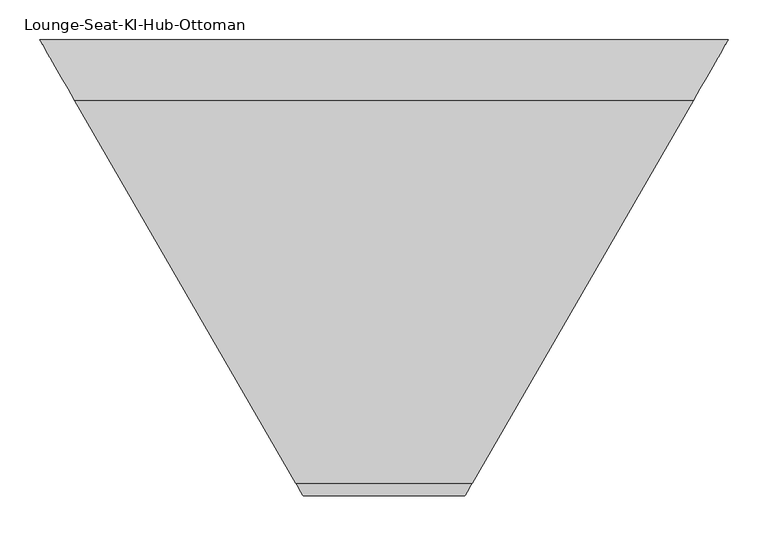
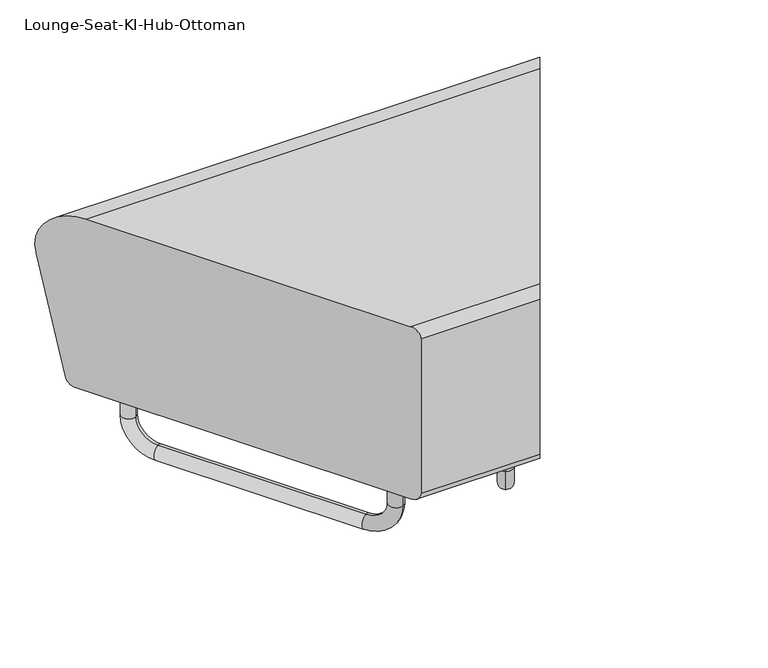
"""IFC4 building model written with IfcOpenShell, lengths in millimetres: furniture geometry."""

from ifc_helpers import new_model, si_unit, point, frame, origin, place, context, project, spatial, circle_curve, ellipse_curve, trimmed, source, transform, mapped, element, save
from ifc_brep_helpers import plane_surface, cylinder_surface, revolved_surface, advanced_brep


def lounge_seat_ki_hub_ottoman_b643156a(model_context):
    return source(origin(), model_context, "Body", "AdvancedBrep", [
        advanced_brep(
        [(87.3912127, -208.9719299, 120.65), (100.0912127, -186.9748847, 120.65), (87.3912127, -208.9719299, 63.5), (100.0912127, -186.9748847, 63.5), (119.1412127, -153.9793168, 25.4), (119.1412127, -153.9793168, 0.0), (296.9412127, 153.9793168, 0.0), (296.9412127, 153.9793168, 25.4), (315.9912127, 186.9748847, 63.5), (328.6912127, 208.9719299, 63.5), (328.6912127, 208.9719299, 120.65), (315.9912127, 186.9748847, 120.65)],
        [
            (0, 1, circle_curve(frame((93.7412127, -197.9734073, 120.65), z_axis=(0.0, 0.0, 1.0), x_axis=(0.4999999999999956, 0.8660254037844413, 0.0)), 12.7)),
            (1, 0, circle_curve(frame((93.7412127, -197.9734073, 120.65), z_axis=(0.0, 0.0, 1.0), x_axis=(0.4999999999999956, 0.8660254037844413, 0.0)), 12.7)),
            (0, 2),
            (2, 3, circle_curve(frame((93.7412127, -197.9734073, 63.5), z_axis=(0.0, 0.0, 1.0), x_axis=(0.4999999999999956, 0.8660254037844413, 0.0)), 12.7)),
            (3, 1),
            (3, 2, circle_curve(frame((93.7412127, -197.9734073, 63.5), z_axis=(0.0, 0.0, 1.0), x_axis=(0.4999999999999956, 0.8660254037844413, 0.0)), 12.7)),
            (4, 3, circle_curve(frame((119.1412127, -153.9793168, 63.5), z_axis=(-0.8660254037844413, 0.4999999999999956, 0.0), x_axis=(-0.4999999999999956, -0.8660254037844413, 0.0)), 38.1)),
            (2, 5, circle_curve(frame((119.1412127, -153.9793168, 63.5), z_axis=(0.8660254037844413, -0.4999999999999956, 0.0), x_axis=(-0.4999999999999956, -0.8660254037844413, 0.0)), 63.5)),
            (5, 4, circle_curve(frame((119.1412127, -153.9793168, 12.7), z_axis=(-0.4999999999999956, -0.8660254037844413, 0.0), x_axis=(0.0, 0.0, 1.0)), 12.7)),
            (4, 5, circle_curve(frame((119.1412127, -153.9793168, 12.7), z_axis=(-0.4999999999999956, -0.8660254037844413, 0.0), x_axis=(0.0, 0.0, 1.0)), 12.7)),
            (5, 6),
            (6, 7, circle_curve(frame((296.9412127, 153.9793168, 12.7), z_axis=(-0.4999999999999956, -0.8660254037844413, 0.0), x_axis=(0.0, 0.0, 1.0)), 12.7)),
            (7, 4),
            (7, 6, circle_curve(frame((296.9412127, 153.9793168, 12.7), z_axis=(-0.4999999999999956, -0.8660254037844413, 0.0), x_axis=(0.0, 0.0, 1.0)), 12.7)),
            (8, 7, circle_curve(frame((296.9412127, 153.9793168, 63.5), z_axis=(-0.8660254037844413, 0.4999999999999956, 0.0), x_axis=(0.0, 0.0, -1.0)), 38.1)),
            (6, 9, circle_curve(frame((296.9412127, 153.9793168, 63.5), z_axis=(0.8660254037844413, -0.4999999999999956, 0.0), x_axis=(0.0, 0.0, -1.0)), 63.5)),
            (9, 8, circle_curve(frame((322.3412127, 197.9734073, 63.5), z_axis=(0.0, 0.0, -1.0), x_axis=(-0.4999999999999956, -0.8660254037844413, 0.0)), 12.7)),
            (8, 9, circle_curve(frame((322.3412127, 197.9734073, 63.5), z_axis=(0.0, 0.0, -1.0), x_axis=(-0.4999999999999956, -0.8660254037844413, 0.0)), 12.7)),
            (10, 11, circle_curve(frame((322.3412127, 197.9734073, 120.65), z_axis=(0.0, 0.0, 1.0), x_axis=(-0.4999999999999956, -0.8660254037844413, 0.0)), 12.7)),
            (11, 10, circle_curve(frame((322.3412127, 197.9734073, 120.65), z_axis=(0.0, 0.0, 1.0), x_axis=(-0.4999999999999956, -0.8660254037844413, 0.0)), 12.7)),
            (9, 10),
            (11, 8),
        ],
        [
            plane_surface(frame((93.7412127, -197.9734073, 120.65), z_axis=(0.0, 0.0, 1.0000000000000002), x_axis=(0.8660254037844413, -0.4999999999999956, 0.0))),
            cylinder_surface(frame((93.7412127, -197.9734073, 120.65), z_axis=(0.0, 0.0, 1.0), x_axis=(0.4999999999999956, 0.8660254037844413, 0.0)), 12.7),
            revolved_surface(trimmed(ellipse_curve(frame((93.7412127, -197.9734073, 63.5), z_axis=(0.0, 0.0, 1.0), x_axis=(0.4999999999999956, 0.8660254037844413, 0.0)), 12.7, 12.7), [point((87.3912127, -208.9719299, 63.5))], [point((100.0912127, -186.9748847, 63.5))], True, "CARTESIAN"), (119.1412127, -153.9793168, 63.5), (0.8660254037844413, -0.4999999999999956, 0.0)),
            revolved_surface(trimmed(ellipse_curve(frame((93.7412127, -197.9734073, 63.5), z_axis=(0.0, 0.0, 1.0), x_axis=(0.4999999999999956, 0.8660254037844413, 0.0)), 12.7, 12.7), [point((100.0912127, -186.9748847, 63.5))], [point((87.3912127, -208.9719299, 63.5))], True, "CARTESIAN"), (119.1412127, -153.9793168, 63.5), (0.8660254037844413, -0.4999999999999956, 0.0)),
            cylinder_surface(frame((119.1412127, -153.9793168, 12.7), z_axis=(-0.4999999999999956, -0.8660254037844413, 0.0), x_axis=(0.0, 0.0, 1.0)), 12.7),
            revolved_surface(trimmed(ellipse_curve(frame((296.9412127, 153.9793168, 12.7), z_axis=(-0.4999999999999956, -0.8660254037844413, 0.0), x_axis=(0.0, 0.0, 1.0)), 12.7, 12.7), [point((296.9412127, 153.9793168, 0.0))], [point((296.9412127, 153.9793168, 25.4))], True, "CARTESIAN"), (296.9412127, 153.9793168, 63.5), (0.8660254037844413, -0.4999999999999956, 0.0)),
            revolved_surface(trimmed(ellipse_curve(frame((296.9412127, 153.9793168, 12.7), z_axis=(-0.4999999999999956, -0.8660254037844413, 0.0), x_axis=(0.0, 0.0, 1.0)), 12.7, 12.7), [point((296.9412127, 153.9793168, 25.4))], [point((296.9412127, 153.9793168, 0.0))], True, "CARTESIAN"), (296.9412127, 153.9793168, 63.5), (0.8660254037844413, -0.4999999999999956, 0.0)),
            plane_surface(frame((322.3412127, 197.9734073, 120.65), z_axis=(0.0, 0.0, 1.0000000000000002), x_axis=(0.8660254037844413, -0.4999999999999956, 0.0))),
            cylinder_surface(frame((322.3412127, 197.9734073, 63.5), z_axis=(0.0, 0.0, -1.0), x_axis=(-0.4999999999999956, -0.8660254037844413, 0.0)), 12.7),
        ],
        [
            (0, [[1, 2]]),
            (1, [[-1, 3, 4, 5]]),
            (1, [[-2, -5, 6, -3]]),
            (2, [[7, -4, 8, 9]]),
            (3, [[-8, -6, -7, 10]]),
            (4, [[-9, 11, 12, 13]]),
            (4, [[-10, -13, 14, -11]]),
            (5, [[15, -12, 16, 17]]),
            (6, [[-16, -14, -15, 18]]),
            (7, [[19, 20]]),
            (8, [[-17, 21, -20, 22]]),
            (8, [[-18, -22, -19, -21]]),
        ],
    ),
        advanced_brep(
        [(-87.3912127, -208.9719299, 120.65), (-100.0912127, -186.9748847, 120.65), (-87.3912127, -208.9719299, 63.5), (-100.0912127, -186.9748847, 63.5), (-119.1412127, -153.9793168, 25.4), (-119.1412127, -153.9793168, 0.0), (-296.9412127, 153.9793168, 0.0), (-296.9412127, 153.9793168, 25.4), (-315.9912127, 186.9748847, 63.5), (-328.6912127, 208.9719299, 63.5), (-328.6912127, 208.9719299, 120.65), (-315.9912127, 186.9748847, 120.65)],
        [
            (0, 1, circle_curve(frame((-93.7412127, -197.9734073, 120.65), z_axis=(0.0, 0.0, 1.0), x_axis=(-0.4999999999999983, 0.8660254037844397, 0.0)), 12.7)),
            (1, 0, circle_curve(frame((-93.7412127, -197.9734073, 120.65), z_axis=(0.0, 0.0, 1.0), x_axis=(-0.4999999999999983, 0.8660254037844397, 0.0)), 12.7)),
            (0, 2),
            (2, 3, circle_curve(frame((-93.7412127, -197.9734073, 63.5), z_axis=(0.0, 0.0, 1.0), x_axis=(-0.4999999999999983, 0.8660254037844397, 0.0)), 12.7)),
            (3, 1),
            (3, 2, circle_curve(frame((-93.7412127, -197.9734073, 63.5), z_axis=(0.0, 0.0, 1.0), x_axis=(-0.4999999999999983, 0.8660254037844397, 0.0)), 12.7)),
            (4, 3, circle_curve(frame((-119.1412127, -153.9793168, 63.5), z_axis=(-0.8660254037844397, -0.4999999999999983, 0.0), x_axis=(0.4999999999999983, -0.8660254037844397, 0.0)), 38.1)),
            (2, 5, circle_curve(frame((-119.1412127, -153.9793168, 63.5), z_axis=(0.8660254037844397, 0.4999999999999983, 0.0), x_axis=(0.4999999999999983, -0.8660254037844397, 0.0)), 63.5)),
            (5, 4, circle_curve(frame((-119.1412127, -153.9793168, 12.7), z_axis=(0.4999999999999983, -0.8660254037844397, 0.0), x_axis=(0.0, 0.0, 1.0)), 12.7)),
            (4, 5, circle_curve(frame((-119.1412127, -153.9793168, 12.7), z_axis=(0.4999999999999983, -0.8660254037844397, 0.0), x_axis=(0.0, 0.0, 1.0)), 12.7)),
            (5, 6),
            (6, 7, circle_curve(frame((-296.9412127, 153.9793168, 12.7), z_axis=(0.4999999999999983, -0.8660254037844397, 0.0), x_axis=(0.0, 0.0, 1.0)), 12.7)),
            (7, 4),
            (7, 6, circle_curve(frame((-296.9412127, 153.9793168, 12.7), z_axis=(0.4999999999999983, -0.8660254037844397, 0.0), x_axis=(0.0, 0.0, 1.0)), 12.7)),
            (8, 7, circle_curve(frame((-296.9412127, 153.9793168, 63.5), z_axis=(-0.8660254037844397, -0.4999999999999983, 0.0), x_axis=(0.0, 0.0, -1.0)), 38.1)),
            (6, 9, circle_curve(frame((-296.9412127, 153.9793168, 63.5), z_axis=(0.8660254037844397, 0.4999999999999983, 0.0), x_axis=(0.0, 0.0, -1.0)), 63.5)),
            (9, 8, circle_curve(frame((-322.3412127, 197.9734073, 63.5), z_axis=(0.0, 0.0, -1.0), x_axis=(0.4999999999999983, -0.8660254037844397, 0.0)), 12.7)),
            (8, 9, circle_curve(frame((-322.3412127, 197.9734073, 63.5), z_axis=(0.0, 0.0, -1.0), x_axis=(0.4999999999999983, -0.8660254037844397, 0.0)), 12.7)),
            (10, 11, circle_curve(frame((-322.3412127, 197.9734073, 120.65), z_axis=(0.0, 0.0, 1.0), x_axis=(0.4999999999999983, -0.8660254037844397, 0.0)), 12.7)),
            (11, 10, circle_curve(frame((-322.3412127, 197.9734073, 120.65), z_axis=(0.0, 0.0, 1.0), x_axis=(0.4999999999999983, -0.8660254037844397, 0.0)), 12.7)),
            (9, 10),
            (11, 8),
        ],
        [
            plane_surface(frame((-93.7412127, -197.9734073, 120.65), z_axis=(0.0, 0.0, 1.0000000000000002), x_axis=(0.8660254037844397, 0.4999999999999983, 0.0))),
            cylinder_surface(frame((-93.7412127, -197.9734073, 120.65), z_axis=(0.0, 0.0, 1.0), x_axis=(-0.4999999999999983, 0.8660254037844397, 0.0)), 12.7),
            revolved_surface(trimmed(ellipse_curve(frame((-93.7412127, -197.9734073, 63.5), z_axis=(0.0, 0.0, 1.0), x_axis=(-0.4999999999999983, 0.8660254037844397, 0.0)), 12.7, 12.7), [point((-87.3912127, -208.9719299, 63.5))], [point((-100.0912127, -186.9748847, 63.5))], True, "CARTESIAN"), (-119.1412127, -153.9793168, 63.5), (0.8660254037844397, 0.4999999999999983, 0.0)),
            revolved_surface(trimmed(ellipse_curve(frame((-93.7412127, -197.9734073, 63.5), z_axis=(0.0, 0.0, 1.0), x_axis=(-0.4999999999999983, 0.8660254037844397, 0.0)), 12.7, 12.7), [point((-100.0912127, -186.9748847, 63.5))], [point((-87.3912127, -208.9719299, 63.5))], True, "CARTESIAN"), (-119.1412127, -153.9793168, 63.5), (0.8660254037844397, 0.4999999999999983, 0.0)),
            cylinder_surface(frame((-119.1412127, -153.9793168, 12.7), z_axis=(0.4999999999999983, -0.8660254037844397, 0.0), x_axis=(0.0, 0.0, 1.0)), 12.7),
            revolved_surface(trimmed(ellipse_curve(frame((-296.9412127, 153.9793168, 12.7), z_axis=(0.4999999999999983, -0.8660254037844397, 0.0), x_axis=(0.0, 0.0, 1.0)), 12.7, 12.7), [point((-296.9412127, 153.9793168, 0.0))], [point((-296.9412127, 153.9793168, 25.4))], True, "CARTESIAN"), (-296.9412127, 153.9793168, 63.5), (0.8660254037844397, 0.4999999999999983, 0.0)),
            revolved_surface(trimmed(ellipse_curve(frame((-296.9412127, 153.9793168, 12.7), z_axis=(0.4999999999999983, -0.8660254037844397, 0.0), x_axis=(0.0, 0.0, 1.0)), 12.7, 12.7), [point((-296.9412127, 153.9793168, 25.4))], [point((-296.9412127, 153.9793168, 0.0))], True, "CARTESIAN"), (-296.9412127, 153.9793168, 63.5), (0.8660254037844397, 0.4999999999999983, 0.0)),
            plane_surface(frame((-322.3412127, 197.9734073, 120.65), z_axis=(0.0, 0.0, 1.0000000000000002), x_axis=(0.8660254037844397, 0.4999999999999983, 0.0))),
            cylinder_surface(frame((-322.3412127, 197.9734073, 63.5), z_axis=(0.0, 0.0, -1.0), x_axis=(0.4999999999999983, -0.8660254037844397, 0.0)), 12.7),
        ],
        [
            (0, [[1, 2]]),
            (1, [[-1, 3, 4, 5]]),
            (1, [[-2, -5, 6, -3]]),
            (2, [[7, -4, 8, 9]]),
            (3, [[-8, -6, -7, 10]]),
            (4, [[-9, 11, 12, 13]]),
            (4, [[-10, -13, 14, -11]]),
            (5, [[15, -12, 16, 17]]),
            (6, [[-16, -14, -15, 18]]),
            (7, [[19, 20]]),
            (8, [[-17, 21, -20, 22]]),
            (8, [[-18, -22, -19, -21]]),
        ],
    ),
        advanced_brep(
        [(-110.7654355, -270.0865883, 431.8), (110.7654355, -270.0865883, 431.8), (387.8059095, 209.7615883, 431.8), (-387.8059095, 209.7615883, 431.8), (110.7654355, -270.0865883, 120.65), (-110.7654355, -270.0865883, 120.65), (-396.5278636, 224.868456, 120.65), (396.5278636, 224.868456, 120.65), (-101.6, -285.9615883, 415.925), (-431.8, 285.9615883, 355.6), (-430.8386236, 284.2964355, 339.7571292), (-405.4930124, 240.3965491, 133.2244019), (-101.6, -285.9615883, 136.525), (101.6, -285.9615883, 415.925), (101.6, -285.9615883, 136.525), (405.4930124, 240.3965491, 133.2244019), (430.8386236, 284.2964355, 339.7571292), (431.8, 285.9615883, 355.6)],
        [
            (0, 1),
            (1, 2),
            (2, 3),
            (3, 0),
            (4, 5),
            (5, 6),
            (6, 7),
            (7, 4),
            (8, 0, ellipse_curve(frame((-110.7654355, -270.0865883, 415.925), z_axis=(-0.8660254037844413, -0.4999999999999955, 0.0), x_axis=(0.49999999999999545, -0.8660254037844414, 0.0)), 18.330871, 15.875)),
            (3, 9, ellipse_curve(frame((-387.8059095, 209.7615883, 355.6), z_axis=(-0.8660254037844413, -0.4999999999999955, 0.0), x_axis=(-0.49999999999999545, 0.8660254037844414, 0.0)), 87.988181, 76.2)),
            (9, 10, ellipse_curve(frame((-387.8059095, 209.7615883, 355.6), z_axis=(-0.8660254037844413, -0.4999999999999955, 0.0), x_axis=(-0.49999999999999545, 0.8660254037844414, 0.0)), 87.988181, 76.2)),
            (10, 11),
            (11, 6, ellipse_curve(frame((-396.5278636, 224.868456, 136.525), z_axis=(-0.8660254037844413, -0.4999999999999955, 0.0), x_axis=(-0.49999999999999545, 0.8660254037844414, 0.0)), 18.330871, 15.875)),
            (5, 12, ellipse_curve(frame((-110.7654355, -270.0865883, 136.525), z_axis=(-0.8660254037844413, -0.4999999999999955, 0.0), x_axis=(0.49999999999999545, -0.8660254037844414, 0.0)), 18.330871, 15.875)),
            (12, 8),
            (1, 13, ellipse_curve(frame((110.7654355, -270.0865883, 415.925), z_axis=(0.8660254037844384, -0.5000000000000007, 0.0), x_axis=(0.5000000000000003, 0.8660254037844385, 0.0)), 18.330871, 15.875)),
            (13, 14),
            (14, 4, ellipse_curve(frame((110.7654355, -270.0865883, 136.525), z_axis=(0.8660254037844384, -0.5000000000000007, 0.0), x_axis=(0.5000000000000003, 0.8660254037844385, 0.0)), 18.330871, 15.875)),
            (7, 15, ellipse_curve(frame((396.5278636, 224.868456, 136.525), z_axis=(0.8660254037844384, -0.5000000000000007, 0.0), x_axis=(-0.5000000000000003, -0.8660254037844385, 0.0)), 18.330871, 15.875)),
            (15, 16),
            (16, 17, ellipse_curve(frame((387.8059095, 209.7615883, 355.6), z_axis=(0.8660254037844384, -0.5000000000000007, 0.0), x_axis=(-0.5000000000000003, -0.8660254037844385, 0.0)), 87.988181, 76.2)),
            (17, 2, ellipse_curve(frame((387.8059095, 209.7615883, 355.6), z_axis=(0.8660254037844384, -0.5000000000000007, 0.0), x_axis=(-0.5000000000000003, -0.8660254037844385, 0.0)), 87.988181, 76.2)),
            (8, 13),
            (12, 14),
            (10, 16),
            (15, 11),
        ],
        [
            plane_surface(frame((431.8, 270.0865883, 431.8), z_axis=(0.0, 0.0, 1.0), x_axis=(-1.0, 0.0, 0.0))),
            plane_surface(frame((431.8, -270.0865883, 120.65), z_axis=(0.0, 0.0, -1.0), x_axis=(-1.0, 0.0, 0.0))),
            plane_surface(frame((-101.6, -285.9615883, 457.2), z_axis=(-0.8660254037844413, -0.4999999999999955, 0.0), x_axis=(0.0, 0.0, -1.0))),
            plane_surface(frame((431.8, 285.9615883, 457.2), z_axis=(0.8660254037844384, -0.5000000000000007, 0.0), x_axis=(0.0, 0.0, -1.0))),
            cylinder_surface(frame((-431.8, -270.0865883, 415.925), z_axis=(1.0, 0.0, 0.0), x_axis=(0.0, 1.0, 0.0)), 15.875),
            plane_surface(frame((431.8, -285.9615883, 415.925), z_axis=(0.0, -1.0, 0.0), x_axis=(-1.0, 0.0, 0.0))),
            cylinder_surface(frame((-431.8, -270.0865883, 136.525), z_axis=(1.0, 0.0, 0.0), x_axis=(0.0, 1.0, 0.0)), 15.875),
            plane_surface(frame((457.2, 284.2964355, 339.7571292), z_axis=(0.0, 0.9781476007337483, -0.20791169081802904), x_axis=(-1.0, 0.0, 0.0))),
            cylinder_surface(frame((-457.2, 224.868456, 136.525), z_axis=(-1.0, 0.0, 0.0), x_axis=(0.0, 1.0, 0.0)), 15.875),
            cylinder_surface(frame((-457.2, 209.7615883, 355.6), z_axis=(-1.0, 0.0, 0.0), x_axis=(0.0, 1.0, 0.0)), 76.2),
        ],
        [
            (0, [[1, 2, 3, 4]]),
            (1, [[5, 6, 7, 8]]),
            (2, [[9, -4, 10, 11, 12, 13, -6, 14, 15]]),
            (3, [[16, 17, 18, -8, 19, 20, 21, 22, -2]]),
            (4, [[-1, -9, 23, -16]]),
            (5, [[-23, -15, 24, -17]]),
            (6, [[-24, -14, -5, -18]]),
            (7, [[25, -20, 26, -12]]),
            (8, [[-26, -19, -7, -13]]),
            (9, [[-25, -11, -10, -3, -22, -21]]),
        ],
    ),
    ])


if __name__ == "__main__":
    model = new_model("IFC4")
    model_context = context("Model", 3, world=origin())
    ifc_project = project(units=[si_unit("LENGTHUNIT", "METRE", prefix="MILLI")], contexts=[model_context])
    site = spatial("IfcSite", under=ifc_project)
    building = spatial("IfcBuilding", under=site)
    placement = place(None, origin())
    lounge_seat_ki_hub_ottoman_shape = lounge_seat_ki_hub_ottoman_b643156a(model_context)
    element("IfcFurniture", 1, ObjectType="Lounge-Seat-KI-Hub-Ottoman : 60\x9d\x9d° Wedge - Outside", at=placement, inside=building, context=model_context, shape_type="MappedRepresentation", body=[
        mapped(lounge_seat_ki_hub_ottoman_shape, transform((0.0, 0.0, 0.0), x_axis=(1.0, 0.0, 0.0), y_axis=(0.0, 1.0, 0.0), z_axis=(0.0, 0.0, 1.0))),
    ])
    save(model, "model.ifc")
